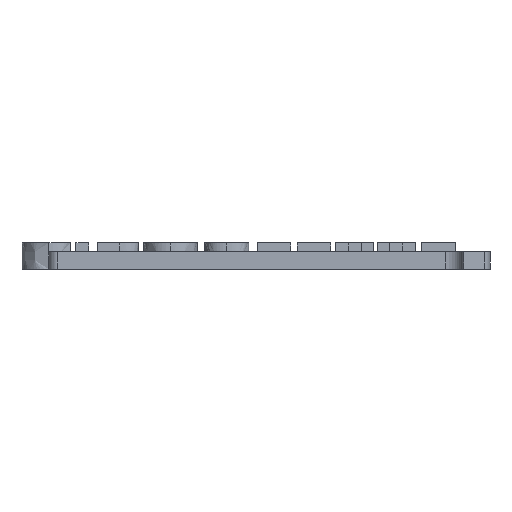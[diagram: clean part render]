
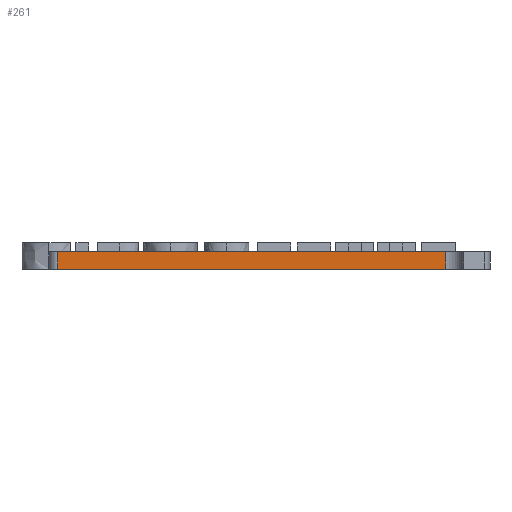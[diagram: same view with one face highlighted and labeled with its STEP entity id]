
A CAD part, front view. The second image highlights one B-rep face of the part: STEP entity #261.
In plain terms, the highlighted planar face has unit normal (0, -1, 0).
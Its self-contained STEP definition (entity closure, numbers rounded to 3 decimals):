
#261=ADVANCED_FACE('',(#585),#586,.T.);
#585=FACE_OUTER_BOUND('',#979,.T.);
#586=PLANE('',#980);
#979=EDGE_LOOP('',(#1822,#1823,#1824,#1825));
#980=AXIS2_PLACEMENT_3D('',#1826,#1827,#1828);
#1822=ORIENTED_EDGE('',*,*,#2812,.T.);
#1823=ORIENTED_EDGE('',*,*,#2899,.T.);
#1824=ORIENTED_EDGE('',*,*,#2883,.F.);
#1825=ORIENTED_EDGE('',*,*,#2900,.T.);
#1826=CARTESIAN_POINT('',(-26.5,-3.0,0.0));
#1827=DIRECTION('',(0.,-1.0,0.0));
#1828=DIRECTION('',(1.0,0.,0.0));
#2812=EDGE_CURVE('',#3440,#3438,#3441,.T.);
#2883=EDGE_CURVE('',#3570,#3572,#3573,.T.);
#2899=EDGE_CURVE('',#3438,#3572,#3598,.T.);
#2900=EDGE_CURVE('',#3570,#3440,#3599,.F.);
#3438=VERTEX_POINT('',#4409);
#3440=VERTEX_POINT('',#4411);
#3441=LINE('',#4412,#4413);
#3570=VERTEX_POINT('',#4712);
#3572=VERTEX_POINT('',#4714);
#3573=LINE('',#4715,#4716);
#3598=LINE('',#4751,#4752);
#3599=LINE('',#4753,#4754);
#4409=CARTESIAN_POINT('',(-5.0,-3.0,0.0));
#4411=CARTESIAN_POINT('',(-49.0,-3.0,0.0));
#4412=CARTESIAN_POINT('',(-26.5,-3.0,0.0));
#4413=VECTOR('',#5335,1.0);
#4712=CARTESIAN_POINT('',(-49.0,-3.0,2.0));
#4714=CARTESIAN_POINT('',(-5.0,-3.0,2.0));
#4715=CARTESIAN_POINT('',(-26.5,-3.0,2.0));
#4716=VECTOR('',#5378,1.0);
#4751=CARTESIAN_POINT('',(-5.0,-3.0,2.0));
#4752=VECTOR('',#5398,1.0);
#4753=CARTESIAN_POINT('',(-49.0,-3.0,0.0));
#4754=VECTOR('',#5399,1.0);
#5335=DIRECTION('',(1.0,0.,0.0));
#5378=DIRECTION('',(1.0,0.,0.0));
#5398=DIRECTION('',(0.0,0.0,1.0));
#5399=DIRECTION('',(0.0,0.0,1.0));
